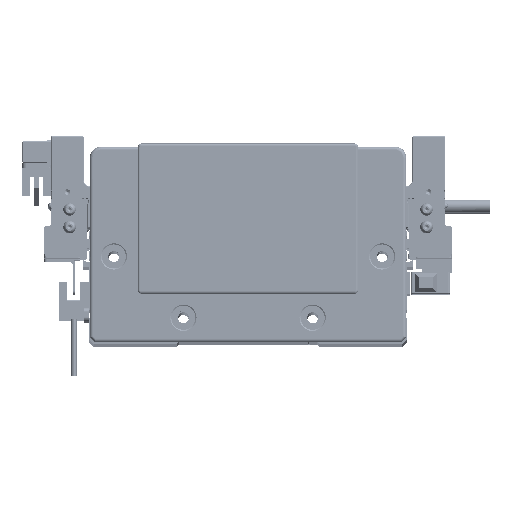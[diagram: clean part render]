
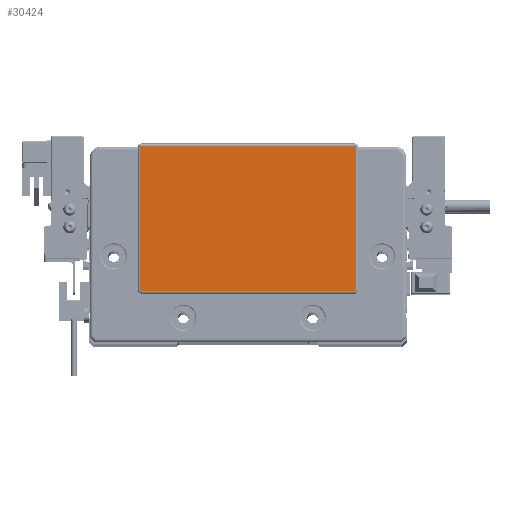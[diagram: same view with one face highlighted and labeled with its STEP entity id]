
A CAD part, top view. The second image highlights one B-rep face of the part: STEP entity #30424.
In plain terms, the highlighted planar face has unit normal (0, 0, 1) as drawn and (0, 0, -1) by its records, which use the part's own axes.
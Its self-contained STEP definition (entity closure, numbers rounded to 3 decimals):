
#416 = EDGE_CURVE ( 'NONE', #88818, #86187, #85741, .T. ) ;
#1613 = LINE ( 'NONE', #82681, #90950 ) ;
#1631 = DIRECTION ( 'NONE',  ( 0., 0., -1. ) ) ;
#1745 = AXIS2_PLACEMENT_3D ( 'NONE', #41281, #71053, #76971 ) ;
#3721 = CARTESIAN_POINT ( 'NONE',  ( 48.75, -21.8, -2. ) ) ;
#4669 = DIRECTION ( 'NONE',  ( 0., 0., -1. ) ) ;
#6511 = ORIENTED_EDGE ( 'NONE', *, *, #43111, .T. ) ;
#9151 = ORIENTED_EDGE ( 'NONE', *, *, #17663, .T. ) ;
#9927 = CIRCLE ( 'NONE', #95647, 0.5 ) ;
#11438 = VERTEX_POINT ( 'NONE', #26644 ) ;
#11688 = AXIS2_PLACEMENT_3D ( 'NONE', #90485, #1631, #44097 ) ;
#12731 = EDGE_CURVE ( 'NONE', #62844, #15167, #17310, .T. ) ;
#13148 = CARTESIAN_POINT ( 'NONE',  ( 48.75, 44.3, -2. ) ) ;
#15167 = VERTEX_POINT ( 'NONE', #82814 ) ;
#16337 = ORIENTED_EDGE ( 'NONE', *, *, #59043, .T. ) ;
#17310 = CIRCLE ( 'NONE', #1745, 0.5 ) ;
#17663 = EDGE_CURVE ( 'NONE', #69213, #11438, #9927, .T. ) ;
#26644 = CARTESIAN_POINT ( 'NONE',  ( -49.25, -21.8, -2. ) ) ;
#27696 = CARTESIAN_POINT ( 'NONE',  ( -48.75, -21.8, -2. ) ) ;
#29633 = DIRECTION ( 'NONE',  ( -1., 0., 0. ) ) ;
#29846 = AXIS2_PLACEMENT_3D ( 'NONE', #50779, #42486, #96212 ) ;
#30424 = ADVANCED_FACE ( 'NONE', ( #74859 ), #45543, .T. ) ;
#32260 = VERTEX_POINT ( 'NONE', #54682 ) ;
#32364 = DIRECTION ( 'NONE',  ( 0., 1., 0. ) ) ;
#33357 = DIRECTION ( 'NONE',  ( 0., -1., 0. ) ) ;
#33423 = ORIENTED_EDGE ( 'NONE', *, *, #12731, .T. ) ;
#36040 = VECTOR ( 'NONE', #32364, 1000. ) ;
#37241 = ORIENTED_EDGE ( 'NONE', *, *, #37956, .T. ) ;
#37956 = EDGE_CURVE ( 'NONE', #15167, #88818, #46080, .T. ) ;
#38709 = DIRECTION ( 'NONE',  ( 1., 0., 0. ) ) ;
#40299 = CARTESIAN_POINT ( 'NONE',  ( 48.75, -22.3, -2. ) ) ;
#41281 = CARTESIAN_POINT ( 'NONE',  ( 48.75, 43.8, -2. ) ) ;
#42265 = CIRCLE ( 'NONE', #29846, 0.5 ) ;
#42486 = DIRECTION ( 'NONE',  ( 0., 0., -1. ) ) ;
#43111 = EDGE_CURVE ( 'NONE', #11438, #32260, #47448, .T. ) ;
#44097 = DIRECTION ( 'NONE',  ( -1., 0., 0. ) ) ;
#45543 = PLANE ( 'NONE',  #11688 ) ;
#46080 = LINE ( 'NONE', #75877, #74465 ) ;
#47012 = ORIENTED_EDGE ( 'NONE', *, *, #70999, .T. ) ;
#47448 = LINE ( 'NONE', #91442, #36040 ) ;
#50779 = CARTESIAN_POINT ( 'NONE',  ( -48.75, 43.8, -2. ) ) ;
#54682 = CARTESIAN_POINT ( 'NONE',  ( -49.25, 43.8, -2. ) ) ;
#55113 = EDGE_CURVE ( 'NONE', #32260, #75353, #42265, .T. ) ;
#57714 = CARTESIAN_POINT ( 'NONE',  ( -48.75, 44.3, -2. ) ) ;
#59043 = EDGE_CURVE ( 'NONE', #75353, #62844, #1613, .T. ) ;
#59211 = AXIS2_PLACEMENT_3D ( 'NONE', #3721, #4669, #92586 ) ;
#62844 = VERTEX_POINT ( 'NONE', #13148 ) ;
#64808 = CARTESIAN_POINT ( 'NONE',  ( 49.25, -21.8, -2. ) ) ;
#67790 = DIRECTION ( 'NONE',  ( -1., 0., 0. ) ) ;
#68271 = CARTESIAN_POINT ( 'NONE',  ( -48.75, -22.3, -2. ) ) ;
#69213 = VERTEX_POINT ( 'NONE', #80855 ) ;
#69334 = ORIENTED_EDGE ( 'NONE', *, *, #416, .T. ) ;
#70999 = EDGE_CURVE ( 'NONE', #86187, #69213, #90268, .T. ) ;
#71053 = DIRECTION ( 'NONE',  ( 0., 0., -1. ) ) ;
#74465 = VECTOR ( 'NONE', #33357, 1000. ) ;
#74859 = FACE_OUTER_BOUND ( 'NONE', #86866, .T. ) ;
#75353 = VERTEX_POINT ( 'NONE', #57714 ) ;
#75877 = CARTESIAN_POINT ( 'NONE',  ( 49.25, -21.8, -2. ) ) ;
#76971 = DIRECTION ( 'NONE',  ( -1., 0., 0. ) ) ;
#80855 = CARTESIAN_POINT ( 'NONE',  ( -48.75, -22.3, -2. ) ) ;
#82681 = CARTESIAN_POINT ( 'NONE',  ( 48.75, 44.3, -2. ) ) ;
#82814 = CARTESIAN_POINT ( 'NONE',  ( 49.25, 43.8, -2. ) ) ;
#82855 = DIRECTION ( 'NONE',  ( 0., 0., -1. ) ) ;
#85741 = CIRCLE ( 'NONE', #59211, 0.5 ) ;
#86187 = VERTEX_POINT ( 'NONE', #40299 ) ;
#86866 = EDGE_LOOP ( 'NONE', ( #37241, #69334, #47012, #9151, #6511, #88194, #16337, #33423 ) ) ;
#88194 = ORIENTED_EDGE ( 'NONE', *, *, #55113, .T. ) ;
#88818 = VERTEX_POINT ( 'NONE', #64808 ) ;
#90268 = LINE ( 'NONE', #68271, #95485 ) ;
#90485 = CARTESIAN_POINT ( 'NONE',  ( 0., 0., -2. ) ) ;
#90950 = VECTOR ( 'NONE', #38709, 1000. ) ;
#91442 = CARTESIAN_POINT ( 'NONE',  ( -49.25, 43.8, -2. ) ) ;
#92586 = DIRECTION ( 'NONE',  ( -1., 0., 0. ) ) ;
#95485 = VECTOR ( 'NONE', #67790, 1000. ) ;
#95647 = AXIS2_PLACEMENT_3D ( 'NONE', #27696, #82855, #29633 ) ;
#96212 = DIRECTION ( 'NONE',  ( -1., 0., 0. ) ) ;
